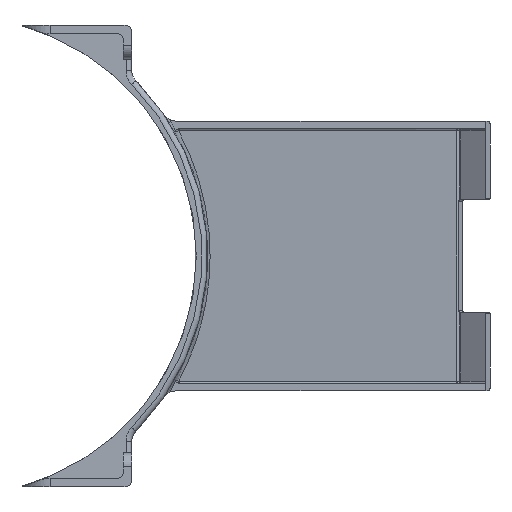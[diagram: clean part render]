
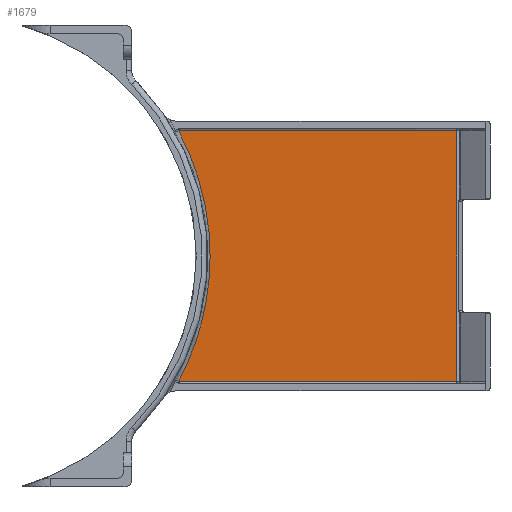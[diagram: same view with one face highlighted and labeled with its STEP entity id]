
A CAD part, left-side view. The second image highlights one B-rep face of the part: STEP entity #1679.
In plain terms, the highlighted planar face has unit normal (-0.574, -0.819, 0).
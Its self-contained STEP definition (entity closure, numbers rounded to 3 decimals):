
#102 = CARTESIAN_POINT ( 'NONE',  ( 23.08, -78.158, 44.5 ) ) ;
#117 = EDGE_CURVE ( 'NONE', #1324, #379, #220, .T. ) ;
#220 = LINE ( 'NONE', #3607, #2539 ) ;
#379 = VERTEX_POINT ( 'NONE', #3434 ) ;
#670 = ORIENTED_EDGE ( 'NONE', *, *, #2996, .T. ) ;
#744 = LINE ( 'NONE', #102, #3277 ) ;
#751 = DIRECTION ( 'NONE',  ( -0.819, 0.574, 0. ) ) ;
#785 = CARTESIAN_POINT ( 'NONE',  ( 23.858, -78.704, 44.5 ) ) ;
#935 = DIRECTION ( 'NONE',  ( 0., 0., 1. ) ) ;
#1050 = PLANE ( 'NONE',  #2780 ) ;
#1261 = ORIENTED_EDGE ( 'NONE', *, *, #117, .T. ) ;
#1324 = VERTEX_POINT ( 'NONE', #3811 ) ;
#1497 = CARTESIAN_POINT ( 'NONE',  ( 165.133, -177.625, -48. ) ) ;
#1530 = VECTOR ( 'NONE', #935, 1000. ) ;
#1679 = ADVANCED_FACE ( 'NONE', ( #3729 ), #1050, .T. ) ;
#1681 = EDGE_LOOP ( 'NONE', ( #3657, #670, #2158, #1261 ) ) ;
#1803 = VERTEX_POINT ( 'NONE', #2476 ) ;
#1974 = CARTESIAN_POINT ( 'NONE',  ( 168., -179.633, -48. ) ) ;
#2025 = CARTESIAN_POINT ( 'NONE',  ( 45.646, -93.96, 16.113 ) ) ;
#2079 = DIRECTION ( 'NONE',  ( 0.819, -0.574, 0. ) ) ;
#2158 = ORIENTED_EDGE ( 'NONE', *, *, #2552, .T. ) ;
#2255 = VERTEX_POINT ( 'NONE', #2394 ) ;
#2394 = CARTESIAN_POINT ( 'NONE',  ( 165.133, -177.625, 44.5 ) ) ;
#2476 = CARTESIAN_POINT ( 'NONE',  ( 23.858, -78.704, 44.5 ) ) ;
#2539 = VECTOR ( 'NONE', #2079, 1000. ) ;
#2552 = EDGE_CURVE ( 'NONE', #1803, #1324, #3652, .T. ) ;
#2780 = AXIS2_PLACEMENT_3D ( 'NONE', #1974, #2955, #3577 ) ;
#2830 = EDGE_CURVE ( 'NONE', #379, #2255, #3184, .T. ) ;
#2955 = DIRECTION ( 'NONE',  ( -0.574, -0.819, 0. ) ) ;
#2964 = CARTESIAN_POINT ( 'NONE',  ( 23.858, -78.704, -44.5 ) ) ;
#2996 = EDGE_CURVE ( 'NONE', #2255, #1803, #744, .T. ) ;
#3184 = LINE ( 'NONE', #1497, #1530 ) ;
#3277 = VECTOR ( 'NONE', #751, 1000. ) ;
#3434 = CARTESIAN_POINT ( 'NONE',  ( 165.133, -177.625, -44.5 ) ) ;
#3546 = CARTESIAN_POINT ( 'NONE',  ( 45.646, -93.96, -16.113 ) ) ;
#3577 = DIRECTION ( 'NONE',  ( 0.819, -0.574, 0. ) ) ;
#3607 = CARTESIAN_POINT ( 'NONE',  ( 165.952, -178.199, -44.5 ) ) ;
#3652 =( BOUNDED_CURVE ( )  B_SPLINE_CURVE ( 3, ( #785, #2025, #3546, #2964 ),
 .UNSPECIFIED., .F., .F. ) 
 B_SPLINE_CURVE_WITH_KNOTS ( ( 4, 4 ),
 ( 2.648, 3.635 ),
 .UNSPECIFIED. ) 
 CURVE ( )  GEOMETRIC_REPRESENTATION_ITEM ( )  RATIONAL_B_SPLINE_CURVE ( ( 1., 0.921, 0.921, 1. ) ) 
 REPRESENTATION_ITEM ( '' )  );
#3657 = ORIENTED_EDGE ( 'NONE', *, *, #2830, .T. ) ;
#3729 = FACE_OUTER_BOUND ( 'NONE', #1681, .T. ) ;
#3811 = CARTESIAN_POINT ( 'NONE',  ( 23.858, -78.704, -44.5 ) ) ;
